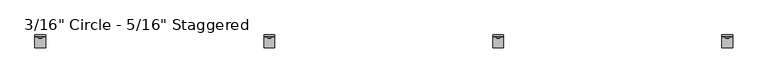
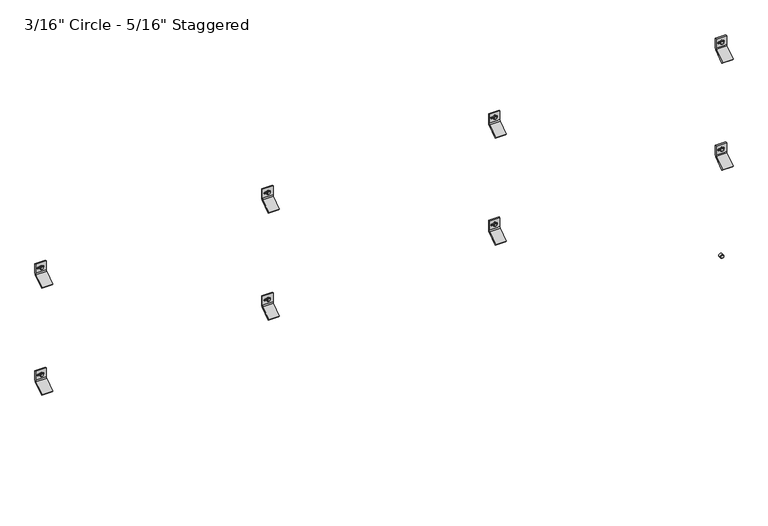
"""IFC4 building model written with IfcOpenShell, lengths in millimetres: plate geometry."""

from ifc_helpers import new_model, si_unit, point, frame, frame_2d, origin, place, context, project, spatial, polyline, circle_curve, trimmed, segment, composite_curve, outline, extrude, source, transform, mapped, element, save
from ifc_brep_helpers import plane_surface, cylinder_surface, revolved_surface, advanced_brep


def plate_aa715eca(model_context):
    return source(origin(), model_context, "Body", "SolidModel", [
        extrude(outline(polyline([(1395.4295323, 1223.7070034), (1391.0838197, 1226.2160017), (1391.0838197, 1231.2339983), (1395.4295323, 1233.7429966), (1399.7752448, 1231.2339983), (1399.7752448, 1226.2160017), (1395.4295323, 1223.7070034)])), frame((0.0, -58.7607779, 0.0), z_axis=(0.0, 1.0, 0.0), x_axis=(0.0, 0.0, 1.0)), (0.0, 0.0, 1.0), 11.1357779),
        extrude(outline(composite_curve([segment(trimmed(circle_curve(frame_2d((1395.5228392, 1228.725)), 6.35), [point((1395.5228392, 1235.075))], [point((1395.5228392, 1222.375))], False, "CARTESIAN"), True, "CONTINUOUS"), segment(trimmed(circle_curve(frame_2d((1395.5228392, 1228.725)), 6.35), [point((1395.5228392, 1222.375))], [point((1395.5228392, 1235.075))], False, "CARTESIAN"), True, "CONTINUOUS")], self_intersect=False)), frame((0.0, -57.0817743, 0.0), z_axis=(0.0, 1.0, 0.0), x_axis=(0.0, 0.0, 1.0)), (0.0, 0.0, 1.0), 9.4567743),
        advanced_brep(
        [(1209.675, -47.625, 1378.2802202), (1209.675, -51.2819443, 1370.6181877), (1209.675, -89.5163624, 1343.84616), (1209.675, -92.9330442, 1347.2628418), (1209.675, -54.3526876, 1374.2770983), (1209.675, -52.4002, 1378.2802911), (1209.675, -52.4002, 1412.4729053), (1209.675, -47.625, 1412.4729053), (1247.775, -47.625, 1378.2802202), (1247.775, -47.625, 1412.4729053), (1247.775, -52.4002, 1412.4729053), (1247.775, -52.4002, 1378.2802911), (1247.775, -54.3526876, 1374.2770983), (1247.775, -92.9330442, 1347.2628418), (1247.775, -89.5163624, 1343.84616), (1247.775, -51.2819443, 1370.6181877), (1235.4661889, -52.4002, 1398.4276891), (1235.4661889, -52.4002, 1392.0776891), (1219.2383287, -52.4002, 1392.0776891), (1219.2383287, -52.4002, 1398.4276891), (1235.4661889, -47.625, 1392.0776891), (1235.4661889, -47.625, 1398.4276891), (1219.2383287, -47.625, 1398.4276891), (1219.2383287, -47.625, 1392.0776891)],
        [
            (0, 1, circle_curve(frame((1209.675, -57.4802202, 1378.2802202), z_axis=(-1.0, 0.0, 0.0), x_axis=(0.0, -1.0, 0.0)), 9.8552202)),
            (1, 2),
            (2, 3),
            (3, 4),
            (4, 5, circle_curve(frame((1209.675, -57.4803246, 1378.2802911), z_axis=(1.0, 0.0, 0.0), x_axis=(0.0, -1.0, 0.0)), 5.0801246)),
            (5, 6),
            (6, 7),
            (7, 0),
            (8, 9),
            (9, 10),
            (10, 11),
            (11, 12, circle_curve(frame((1247.775, -57.4803246, 1378.2802911), z_axis=(-1.0, 0.0, 0.0), x_axis=(0.0, -1.0, 0.0)), 5.0801246)),
            (12, 13),
            (13, 14),
            (14, 15),
            (15, 8, circle_curve(frame((1247.775, -57.4802202, 1378.2802202), z_axis=(1.0, 0.0, 0.0), x_axis=(0.0, -1.0, 0.0)), 9.8552202)),
            (4, 12),
            (11, 5),
            (10, 6),
            (16, 17, circle_curve(frame((1235.4661889, -52.4002, 1395.2526891), z_axis=(0.0, 1.0, 0.0), x_axis=(0.0, 0.0, -1.0)), 3.175)),
            (17, 18),
            (18, 19, circle_curve(frame((1219.2383287, -52.4002, 1395.2526891), z_axis=(0.0, 1.0, 0.0), x_axis=(0.0, 0.0, -1.0)), 3.175)),
            (19, 16),
            (9, 7),
            (8, 0),
            (20, 21, circle_curve(frame((1235.4661889, -47.625, 1395.2526891), z_axis=(0.0, -1.0, 0.0), x_axis=(0.0, 0.0, -1.0)), 3.175)),
            (21, 22),
            (22, 23, circle_curve(frame((1219.2383287, -47.625, 1395.2526891), z_axis=(0.0, -1.0, 0.0), x_axis=(0.0, 0.0, -1.0)), 3.175)),
            (23, 20),
            (15, 1),
            (20, 17),
            (16, 21),
            (19, 22),
            (18, 23),
            (14, 2),
            (13, 3),
        ],
        [
            plane_surface(frame((1209.675, -67.3354404, 1378.2802202), z_axis=(-1.0, 0.0, 0.0), x_axis=(0.0, 0.0, 1.0))),
            plane_surface(frame((1247.775, -67.3354404, 1378.2802202), z_axis=(1.0, 0.0, 0.0), x_axis=(0.0, 0.0, -1.0))),
            revolved_surface(polyline([(1247.775, -62.5604492, 1378.2802911), (1209.675, -62.5604492, 1378.2802911)]), (1247.775, -57.4803246, 1378.2802911), (1.0, 0.0, 0.0)),
            plane_surface(frame((1209.675, -52.4002, 1378.2802911), z_axis=(0.0, -1.0, 0.0), x_axis=(1.0, 0.0, 0.0))),
            plane_surface(frame((1209.675, -52.4002, 1412.4729053), z_axis=(0.0, 0.0, 1.0), x_axis=(1.0, 0.0, 0.0))),
            plane_surface(frame((1209.675, -47.625, 1412.4729053), z_axis=(0.0, 1.0, 6.99569853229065e-12), x_axis=(1.0, 0.0, 0.0))),
            cylinder_surface(frame((1247.775, -57.4802202, 1378.2802202), z_axis=(-1.0, 0.0, 0.0), x_axis=(0.0, -1.0, 0.0)), 9.8552202),
            revolved_surface(polyline([(1235.4661889, -52.4002, 1392.0776891), (1235.4661889, -47.625, 1392.0776891)]), (1235.4661889, -25.6669948, 1395.2526891), (0.0, -1.0, 0.0)),
            plane_surface(frame((1235.4661889, -86.677982, 1398.4276891), z_axis=(0.0, 0.0, -1.0), x_axis=(0.0, 1.0, 0.0))),
            revolved_surface(polyline([(1219.2383287, -52.4002, 1392.0776891), (1219.2383287, -47.625, 1392.0776891)]), (1219.2383287, -25.6669948, 1395.2526891), (0.0, -1.0, 0.0)),
            plane_surface(frame((1219.2383287, -86.677982, 1392.0776891), z_axis=(-2.7237720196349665e-11, 0.0, 1.0), x_axis=(0.0, 1.0, 0.0))),
            plane_surface(frame((1209.675, -51.2819443, 1370.6181877), z_axis=(0.0, 0.5735764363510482, -0.8191520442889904), x_axis=(1.0, 0.0, 0.0))),
            plane_surface(frame((1209.675, -89.5163624, 1343.84616), z_axis=(0.0, -0.7071067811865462, -0.7071067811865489), x_axis=(1.0, 0.0, 0.0))),
            plane_surface(frame((1209.675, -92.9330442, 1347.2628418), z_axis=(0.0, -0.5735764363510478, 0.8191520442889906), x_axis=(1.0, 0.0, 0.0))),
        ],
        [
            (0, [[1, 2, 3, 4, 5, 6, 7, 8]]),
            (1, [[9, 10, 11, 12, 13, 14, 15, 16]]),
            (2, [[-5, 17, -12, 18]]),
            (3, [[-6, -18, -11, 19], [20, 21, 22, 23]]),
            (4, [[-7, -19, -10, 24]]),
            (5, [[-8, -24, -9, 25], [26, 27, 28, 29]]),
            (6, [[-1, -25, -16, 30]]),
            (7, [[31, -20, 32, -26]]),
            (8, [[-32, -23, 33, -27]]),
            (9, [[-33, -22, 34, -28]]),
            (10, [[-31, -29, -34, -21]]),
            (11, [[-2, -30, -15, 35]]),
            (12, [[-3, -35, -14, 36]]),
            (13, [[-4, -36, -13, -17]]),
        ],
    ),
        extrude(outline(polyline([(1395.4295323, 404.5570034), (1391.0838197, 407.0660017), (1391.0838197, 412.0839983), (1395.4295323, 414.5929966), (1399.7752448, 412.0839983), (1399.7752448, 407.0660017), (1395.4295323, 404.5570034)])), frame((0.0, -58.7607779, 0.0), z_axis=(0.0, 1.0, 0.0), x_axis=(0.0, 0.0, 1.0)), (0.0, 0.0, 1.0), 11.1357779),
        extrude(outline(composite_curve([segment(trimmed(circle_curve(frame_2d((1395.5228392, 409.575)), 6.35), [point((1395.5228392, 415.925))], [point((1395.5228392, 403.225))], False, "CARTESIAN"), True, "CONTINUOUS"), segment(trimmed(circle_curve(frame_2d((1395.5228392, 409.575)), 6.35), [point((1395.5228392, 403.225))], [point((1395.5228392, 415.925))], False, "CARTESIAN"), True, "CONTINUOUS")], self_intersect=False)), frame((0.0, -57.0817743, 0.0), z_axis=(0.0, 1.0, 0.0), x_axis=(0.0, 0.0, 1.0)), (0.0, 0.0, 1.0), 9.4567743),
        advanced_brep(
        [(390.525, -47.625, 1378.2802202), (390.525, -51.2819443, 1370.6181877), (390.525, -89.5163624, 1343.84616), (390.525, -92.9330442, 1347.2628418), (390.525, -54.3526876, 1374.2770983), (390.525, -52.4002, 1378.2802911), (390.525, -52.4002, 1412.4729053), (390.525, -47.625, 1412.4729053), (428.625, -47.625, 1378.2802202), (428.625, -47.625, 1412.4729053), (428.625, -52.4002, 1412.4729053), (428.625, -52.4002, 1378.2802911), (428.625, -54.3526876, 1374.2770983), (428.625, -92.9330442, 1347.2628418), (428.625, -89.5163624, 1343.84616), (428.625, -51.2819443, 1370.6181877), (416.3161889, -52.4002, 1398.4276891), (416.3161889, -52.4002, 1392.0776891), (400.0883287, -52.4002, 1392.0776891), (400.0883287, -52.4002, 1398.4276891), (416.3161889, -47.625, 1392.0776891), (416.3161889, -47.625, 1398.4276891), (400.0883287, -47.625, 1398.4276891), (400.0883287, -47.625, 1392.0776891)],
        [
            (0, 1, circle_curve(frame((390.525, -57.4802202, 1378.2802202), z_axis=(-1.0, 0.0, 0.0), x_axis=(0.0, -1.0, 0.0)), 9.8552202)),
            (1, 2),
            (2, 3),
            (3, 4),
            (4, 5, circle_curve(frame((390.525, -57.4803246, 1378.2802911), z_axis=(1.0, 0.0, 0.0), x_axis=(0.0, -1.0, 0.0)), 5.0801246)),
            (5, 6),
            (6, 7),
            (7, 0),
            (8, 9),
            (9, 10),
            (10, 11),
            (11, 12, circle_curve(frame((428.625, -57.4803246, 1378.2802911), z_axis=(-1.0, 0.0, 0.0), x_axis=(0.0, -1.0, 0.0)), 5.0801246)),
            (12, 13),
            (13, 14),
            (14, 15),
            (15, 8, circle_curve(frame((428.625, -57.4802202, 1378.2802202), z_axis=(1.0, 0.0, 0.0), x_axis=(0.0, -1.0, 0.0)), 9.8552202)),
            (4, 12),
            (11, 5),
            (10, 6),
            (16, 17, circle_curve(frame((416.3161889, -52.4002, 1395.2526891), z_axis=(0.0, 1.0, 0.0), x_axis=(0.0, 0.0, -1.0)), 3.175)),
            (17, 18),
            (18, 19, circle_curve(frame((400.0883287, -52.4002, 1395.2526891), z_axis=(0.0, 1.0, 0.0), x_axis=(0.0, 0.0, -1.0)), 3.175)),
            (19, 16),
            (9, 7),
            (8, 0),
            (20, 21, circle_curve(frame((416.3161889, -47.625, 1395.2526891), z_axis=(0.0, -1.0, 0.0), x_axis=(0.0, 0.0, -1.0)), 3.175)),
            (21, 22),
            (22, 23, circle_curve(frame((400.0883287, -47.625, 1395.2526891), z_axis=(0.0, -1.0, 0.0), x_axis=(0.0, 0.0, -1.0)), 3.175)),
            (23, 20),
            (15, 1),
            (20, 17),
            (16, 21),
            (19, 22),
            (18, 23),
            (14, 2),
            (13, 3),
        ],
        [
            plane_surface(frame((390.525, -67.3354404, 1378.2802202), z_axis=(-1.0, 0.0, 0.0), x_axis=(0.0, 0.0, 1.0))),
            plane_surface(frame((428.625, -67.3354404, 1378.2802202), z_axis=(1.0, 0.0, 0.0), x_axis=(0.0, 0.0, -1.0))),
            revolved_surface(polyline([(428.625, -62.5604492, 1378.2802911), (390.525, -62.5604492, 1378.2802911)]), (428.625, -57.4803246, 1378.2802911), (1.0, 0.0, 0.0)),
            plane_surface(frame((390.525, -52.4002, 1378.2802911), z_axis=(0.0, -1.0, 0.0), x_axis=(1.0, 0.0, 0.0))),
            plane_surface(frame((390.525, -52.4002, 1412.4729053), z_axis=(0.0, 0.0, 1.0), x_axis=(1.0, 0.0, 0.0))),
            plane_surface(frame((390.525, -47.625, 1412.4729053), z_axis=(0.0, 1.0, 6.99569853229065e-12), x_axis=(1.0, 0.0, 0.0))),
            cylinder_surface(frame((428.625, -57.4802202, 1378.2802202), z_axis=(-1.0, 0.0, 0.0), x_axis=(0.0, -1.0, 0.0)), 9.8552202),
            revolved_surface(polyline([(416.3161889, -52.4002, 1392.0776891), (416.3161889, -47.625, 1392.0776891)]), (416.3161889, -25.6669948, 1395.2526891), (0.0, -1.0, 0.0)),
            plane_surface(frame((416.3161889, -86.677982, 1398.4276891), z_axis=(0.0, 0.0, -1.0), x_axis=(0.0, 1.0, 0.0))),
            revolved_surface(polyline([(400.0883287, -52.4002, 1392.0776891), (400.0883287, -47.625, 1392.0776891)]), (400.0883287, -25.6669948, 1395.2526891), (0.0, -1.0, 0.0)),
            plane_surface(frame((400.0883287, -86.677982, 1392.0776891), z_axis=(-2.7237720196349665e-11, 0.0, 1.0), x_axis=(0.0, 1.0, 0.0))),
            plane_surface(frame((390.525, -51.2819443, 1370.6181877), z_axis=(0.0, 0.5735764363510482, -0.8191520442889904), x_axis=(1.0, 0.0, 0.0))),
            plane_surface(frame((390.525, -89.5163624, 1343.84616), z_axis=(0.0, -0.7071067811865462, -0.7071067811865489), x_axis=(1.0, 0.0, 0.0))),
            plane_surface(frame((390.525, -92.9330442, 1347.2628418), z_axis=(0.0, -0.5735764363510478, 0.8191520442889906), x_axis=(1.0, 0.0, 0.0))),
        ],
        [
            (0, [[1, 2, 3, 4, 5, 6, 7, 8]]),
            (1, [[9, 10, 11, 12, 13, 14, 15, 16]]),
            (2, [[-5, 17, -12, 18]]),
            (3, [[-6, -18, -11, 19], [20, 21, 22, 23]]),
            (4, [[-7, -19, -10, 24]]),
            (5, [[-8, -24, -9, 25], [26, 27, 28, 29]]),
            (6, [[-1, -25, -16, 30]]),
            (7, [[31, -20, 32, -26]]),
            (8, [[-32, -23, 33, -27]]),
            (9, [[-33, -22, 34, -28]]),
            (10, [[-31, -29, -34, -21]]),
            (11, [[-2, -30, -15, 35]]),
            (12, [[-3, -35, -14, 36]]),
            (13, [[-4, -36, -13, -17]]),
        ],
    ),
        extrude(outline(polyline([(1395.4295323, -414.5929966), (1391.0838197, -412.0839983), (1391.0838197, -407.0660017), (1395.4295323, -404.5570034), (1399.7752448, -407.0660017), (1399.7752448, -412.0839983), (1395.4295323, -414.5929966)])), frame((0.0, -58.7607779, 0.0), z_axis=(0.0, 1.0, 0.0), x_axis=(0.0, 0.0, 1.0)), (0.0, 0.0, 1.0), 11.1357779),
        extrude(outline(composite_curve([segment(trimmed(circle_curve(frame_2d((1395.5228392, -409.575)), 6.35), [point((1395.5228392, -403.225))], [point((1395.5228392, -415.925))], False, "CARTESIAN"), True, "CONTINUOUS"), segment(trimmed(circle_curve(frame_2d((1395.5228392, -409.575)), 6.35), [point((1395.5228392, -415.925))], [point((1395.5228392, -403.225))], False, "CARTESIAN"), True, "CONTINUOUS")], self_intersect=False)), frame((0.0, -57.0817743, 0.0), z_axis=(0.0, 1.0, 0.0), x_axis=(0.0, 0.0, 1.0)), (0.0, 0.0, 1.0), 9.4567743),
        advanced_brep(
        [(-428.625, -47.625, 1378.2802202), (-428.625, -51.2819443, 1370.6181877), (-428.625, -89.5163624, 1343.84616), (-428.625, -92.9330442, 1347.2628418), (-428.625, -54.3526876, 1374.2770983), (-428.625, -52.4002, 1378.2802911), (-428.625, -52.4002, 1412.4729053), (-428.625, -47.625, 1412.4729053), (-390.525, -47.625, 1378.2802202), (-390.525, -47.625, 1412.4729053), (-390.525, -52.4002, 1412.4729053), (-390.525, -52.4002, 1378.2802911), (-390.525, -54.3526876, 1374.2770983), (-390.525, -92.9330442, 1347.2628418), (-390.525, -89.5163624, 1343.84616), (-390.525, -51.2819443, 1370.6181877), (-402.8338111, -52.4002, 1398.4276891), (-402.8338111, -52.4002, 1392.0776891), (-419.0616713, -52.4002, 1392.0776891), (-419.0616713, -52.4002, 1398.4276891), (-402.8338111, -47.625, 1392.0776891), (-402.8338111, -47.625, 1398.4276891), (-419.0616713, -47.625, 1398.4276891), (-419.0616713, -47.625, 1392.0776891)],
        [
            (0, 1, circle_curve(frame((-428.625, -57.4802202, 1378.2802202), z_axis=(-1.0, 0.0, 0.0), x_axis=(0.0, -1.0, 0.0)), 9.8552202)),
            (1, 2),
            (2, 3),
            (3, 4),
            (4, 5, circle_curve(frame((-428.625, -57.4803246, 1378.2802911), z_axis=(1.0, 0.0, 0.0), x_axis=(0.0, -1.0, 0.0)), 5.0801246)),
            (5, 6),
            (6, 7),
            (7, 0),
            (8, 9),
            (9, 10),
            (10, 11),
            (11, 12, circle_curve(frame((-390.525, -57.4803246, 1378.2802911), z_axis=(-1.0, 0.0, 0.0), x_axis=(0.0, -1.0, 0.0)), 5.0801246)),
            (12, 13),
            (13, 14),
            (14, 15),
            (15, 8, circle_curve(frame((-390.525, -57.4802202, 1378.2802202), z_axis=(1.0, 0.0, 0.0), x_axis=(0.0, -1.0, 0.0)), 9.8552202)),
            (4, 12),
            (11, 5),
            (10, 6),
            (16, 17, circle_curve(frame((-402.8338111, -52.4002, 1395.2526891), z_axis=(0.0, 1.0, 0.0), x_axis=(0.0, 0.0, -1.0)), 3.175)),
            (17, 18),
            (18, 19, circle_curve(frame((-419.0616713, -52.4002, 1395.2526891), z_axis=(0.0, 1.0, 0.0), x_axis=(0.0, 0.0, -1.0)), 3.175)),
            (19, 16),
            (9, 7),
            (8, 0),
            (20, 21, circle_curve(frame((-402.8338111, -47.625, 1395.2526891), z_axis=(0.0, -1.0, 0.0), x_axis=(0.0, 0.0, -1.0)), 3.175)),
            (21, 22),
            (22, 23, circle_curve(frame((-419.0616713, -47.625, 1395.2526891), z_axis=(0.0, -1.0, 0.0), x_axis=(0.0, 0.0, -1.0)), 3.175)),
            (23, 20),
            (15, 1),
            (20, 17),
            (16, 21),
            (19, 22),
            (18, 23),
            (14, 2),
            (13, 3),
        ],
        [
            plane_surface(frame((-428.625, -67.3354404, 1378.2802202), z_axis=(-1.0, 0.0, 0.0), x_axis=(0.0, 0.0, 1.0))),
            plane_surface(frame((-390.525, -67.3354404, 1378.2802202), z_axis=(1.0, 0.0, 0.0), x_axis=(0.0, 0.0, -1.0))),
            revolved_surface(polyline([(-390.525, -62.5604492, 1378.2802911), (-428.625, -62.5604492, 1378.2802911)]), (-390.525, -57.4803246, 1378.2802911), (1.0, 0.0, 0.0)),
            plane_surface(frame((-428.625, -52.4002, 1378.2802911), z_axis=(0.0, -1.0, 0.0), x_axis=(1.0, 0.0, 0.0))),
            plane_surface(frame((-428.625, -52.4002, 1412.4729053), z_axis=(0.0, 0.0, 1.0), x_axis=(1.0, 0.0, 0.0))),
            plane_surface(frame((-428.625, -47.625, 1412.4729053), z_axis=(0.0, 1.0, 6.99569853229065e-12), x_axis=(1.0, 0.0, 0.0))),
            cylinder_surface(frame((-390.525, -57.4802202, 1378.2802202), z_axis=(-1.0, 0.0, 0.0), x_axis=(0.0, -1.0, 0.0)), 9.8552202),
            revolved_surface(polyline([(-402.8338111, -52.4002, 1392.0776891), (-402.8338111, -47.625, 1392.0776891)]), (-402.8338111, -25.6669948, 1395.2526891), (0.0, -1.0, 0.0)),
            plane_surface(frame((-402.8338111, -86.677982, 1398.4276891), z_axis=(0.0, 0.0, -1.0), x_axis=(0.0, 1.0, 0.0))),
            revolved_surface(polyline([(-419.0616713, -52.4002, 1392.0776891), (-419.0616713, -47.625, 1392.0776891)]), (-419.0616713, -25.6669948, 1395.2526891), (0.0, -1.0, 0.0)),
            plane_surface(frame((-419.0616713, -86.677982, 1392.0776891), z_axis=(-2.7237720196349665e-11, 0.0, 1.0), x_axis=(0.0, 1.0, 0.0))),
            plane_surface(frame((-428.625, -51.2819443, 1370.6181877), z_axis=(0.0, 0.5735764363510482, -0.8191520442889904), x_axis=(1.0, 0.0, 0.0))),
            plane_surface(frame((-428.625, -89.5163624, 1343.84616), z_axis=(0.0, -0.7071067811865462, -0.7071067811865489), x_axis=(1.0, 0.0, 0.0))),
            plane_surface(frame((-428.625, -92.9330442, 1347.2628418), z_axis=(0.0, -0.5735764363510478, 0.8191520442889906), x_axis=(1.0, 0.0, 0.0))),
        ],
        [
            (0, [[1, 2, 3, 4, 5, 6, 7, 8]]),
            (1, [[9, 10, 11, 12, 13, 14, 15, 16]]),
            (2, [[-5, 17, -12, 18]]),
            (3, [[-6, -18, -11, 19], [20, 21, 22, 23]]),
            (4, [[-7, -19, -10, 24]]),
            (5, [[-8, -24, -9, 25], [26, 27, 28, 29]]),
            (6, [[-1, -25, -16, 30]]),
            (7, [[31, -20, 32, -26]]),
            (8, [[-32, -23, 33, -27]]),
            (9, [[-33, -22, 34, -28]]),
            (10, [[-31, -29, -34, -21]]),
            (11, [[-2, -30, -15, 35]]),
            (12, [[-3, -35, -14, 36]]),
            (13, [[-4, -36, -13, -17]]),
        ],
    ),
        extrude(outline(polyline([(1395.4295323, -1233.7429966), (1391.0838197, -1231.2339983), (1391.0838197, -1226.2160017), (1395.4295323, -1223.7070034), (1399.7752448, -1226.2160017), (1399.7752448, -1231.2339983), (1395.4295323, -1233.7429966)])), frame((0.0, -58.7607779, 0.0), z_axis=(0.0, 1.0, 0.0), x_axis=(0.0, 0.0, 1.0)), (0.0, 0.0, 1.0), 11.1357779),
        extrude(outline(composite_curve([segment(trimmed(circle_curve(frame_2d((1395.5228392, -1228.725)), 6.35), [point((1395.5228392, -1222.375))], [point((1395.5228392, -1235.075))], False, "CARTESIAN"), True, "CONTINUOUS"), segment(trimmed(circle_curve(frame_2d((1395.5228392, -1228.725)), 6.35), [point((1395.5228392, -1235.075))], [point((1395.5228392, -1222.375))], False, "CARTESIAN"), True, "CONTINUOUS")], self_intersect=False)), frame((0.0, -57.0817743, 0.0), z_axis=(0.0, 1.0, 0.0), x_axis=(0.0, 0.0, 1.0)), (0.0, 0.0, 1.0), 9.4567743),
        advanced_brep(
        [(-1247.775, -47.625, 1378.2802202), (-1247.775, -51.2819443, 1370.6181877), (-1247.775, -89.5163624, 1343.84616), (-1247.775, -92.9330442, 1347.2628418), (-1247.775, -54.3526876, 1374.2770983), (-1247.775, -52.4002, 1378.2802911), (-1247.775, -52.4002, 1412.4729053), (-1247.775, -47.625, 1412.4729053), (-1209.675, -47.625, 1378.2802202), (-1209.675, -47.625, 1412.4729053), (-1209.675, -52.4002, 1412.4729053), (-1209.675, -52.4002, 1378.2802911), (-1209.675, -54.3526876, 1374.2770983), (-1209.675, -92.9330442, 1347.2628418), (-1209.675, -89.5163624, 1343.84616), (-1209.675, -51.2819443, 1370.6181877), (-1221.9838111, -52.4002, 1398.4276891), (-1221.9838111, -52.4002, 1392.0776891), (-1238.2116713, -52.4002, 1392.0776891), (-1238.2116713, -52.4002, 1398.4276891), (-1221.9838111, -47.625, 1392.0776891), (-1221.9838111, -47.625, 1398.4276891), (-1238.2116713, -47.625, 1398.4276891), (-1238.2116713, -47.625, 1392.0776891)],
        [
            (0, 1, circle_curve(frame((-1247.775, -57.4802202, 1378.2802202), z_axis=(-1.0, 0.0, 0.0), x_axis=(0.0, -1.0, 0.0)), 9.8552202)),
            (1, 2),
            (2, 3),
            (3, 4),
            (4, 5, circle_curve(frame((-1247.775, -57.4803246, 1378.2802911), z_axis=(1.0, 0.0, 0.0), x_axis=(0.0, -1.0, 0.0)), 5.0801246)),
            (5, 6),
            (6, 7),
            (7, 0),
            (8, 9),
            (9, 10),
            (10, 11),
            (11, 12, circle_curve(frame((-1209.675, -57.4803246, 1378.2802911), z_axis=(-1.0, 0.0, 0.0), x_axis=(0.0, -1.0, 0.0)), 5.0801246)),
            (12, 13),
            (13, 14),
            (14, 15),
            (15, 8, circle_curve(frame((-1209.675, -57.4802202, 1378.2802202), z_axis=(1.0, 0.0, 0.0), x_axis=(0.0, -1.0, 0.0)), 9.8552202)),
            (4, 12),
            (11, 5),
            (10, 6),
            (16, 17, circle_curve(frame((-1221.9838111, -52.4002, 1395.2526891), z_axis=(0.0, 1.0, 0.0), x_axis=(0.0, 0.0, -1.0)), 3.175)),
            (17, 18),
            (18, 19, circle_curve(frame((-1238.2116713, -52.4002, 1395.2526891), z_axis=(0.0, 1.0, 0.0), x_axis=(0.0, 0.0, -1.0)), 3.175)),
            (19, 16),
            (9, 7),
            (8, 0),
            (20, 21, circle_curve(frame((-1221.9838111, -47.625, 1395.2526891), z_axis=(0.0, -1.0, 0.0), x_axis=(0.0, 0.0, -1.0)), 3.175)),
            (21, 22),
            (22, 23, circle_curve(frame((-1238.2116713, -47.625, 1395.2526891), z_axis=(0.0, -1.0, 0.0), x_axis=(0.0, 0.0, -1.0)), 3.175)),
            (23, 20),
            (15, 1),
            (20, 17),
            (16, 21),
            (19, 22),
            (18, 23),
            (14, 2),
            (13, 3),
        ],
        [
            plane_surface(frame((-1247.775, -67.3354404, 1378.2802202), z_axis=(-1.0, 0.0, 0.0), x_axis=(0.0, 0.0, 1.0))),
            plane_surface(frame((-1209.675, -67.3354404, 1378.2802202), z_axis=(1.0, 0.0, 0.0), x_axis=(0.0, 0.0, -1.0))),
            revolved_surface(polyline([(-1209.675, -62.5604492, 1378.2802911), (-1247.775, -62.5604492, 1378.2802911)]), (-1209.675, -57.4803246, 1378.2802911), (1.0, 0.0, 0.0)),
            plane_surface(frame((-1247.775, -52.4002, 1378.2802911), z_axis=(0.0, -1.0, 0.0), x_axis=(1.0, 0.0, 0.0))),
            plane_surface(frame((-1247.775, -52.4002, 1412.4729053), z_axis=(0.0, 0.0, 1.0), x_axis=(1.0, 0.0, 0.0))),
            plane_surface(frame((-1247.775, -47.625, 1412.4729053), z_axis=(0.0, 1.0, 6.99569853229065e-12), x_axis=(1.0, 0.0, 0.0))),
            cylinder_surface(frame((-1209.675, -57.4802202, 1378.2802202), z_axis=(-1.0, 0.0, 0.0), x_axis=(0.0, -1.0, 0.0)), 9.8552202),
            revolved_surface(polyline([(-1221.9838111, -52.4002, 1392.0776891), (-1221.9838111, -47.625, 1392.0776891)]), (-1221.9838111, -25.6669948, 1395.2526891), (0.0, -1.0, 0.0)),
            plane_surface(frame((-1221.9838111, -86.677982, 1398.4276891), z_axis=(0.0, 0.0, -1.0), x_axis=(0.0, 1.0, 0.0))),
            revolved_surface(polyline([(-1238.2116713, -52.4002, 1392.0776891), (-1238.2116713, -47.625, 1392.0776891)]), (-1238.2116713, -25.6669948, 1395.2526891), (0.0, -1.0, 0.0)),
            plane_surface(frame((-1238.2116713, -86.677982, 1392.0776891), z_axis=(-2.7237720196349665e-11, 0.0, 1.0), x_axis=(0.0, 1.0, 0.0))),
            plane_surface(frame((-1247.775, -51.2819443, 1370.6181877), z_axis=(0.0, 0.5735764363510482, -0.8191520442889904), x_axis=(1.0, 0.0, 0.0))),
            plane_surface(frame((-1247.775, -89.5163624, 1343.84616), z_axis=(0.0, -0.7071067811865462, -0.7071067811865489), x_axis=(1.0, 0.0, 0.0))),
            plane_surface(frame((-1247.775, -92.9330442, 1347.2628418), z_axis=(0.0, -0.5735764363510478, 0.8191520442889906), x_axis=(1.0, 0.0, 0.0))),
        ],
        [
            (0, [[1, 2, 3, 4, 5, 6, 7, 8]]),
            (1, [[9, 10, 11, 12, 13, 14, 15, 16]]),
            (2, [[-5, 17, -12, 18]]),
            (3, [[-6, -18, -11, 19], [20, 21, 22, 23]]),
            (4, [[-7, -19, -10, 24]]),
            (5, [[-8, -24, -9, 25], [26, 27, 28, 29]]),
            (6, [[-1, -25, -16, 30]]),
            (7, [[31, -20, 32, -26]]),
            (8, [[-32, -23, 33, -27]]),
            (9, [[-33, -22, 34, -28]]),
            (10, [[-31, -29, -34, -21]]),
            (11, [[-2, -30, -15, 35]]),
            (12, [[-3, -35, -14, 36]]),
            (13, [[-4, -36, -13, -17]]),
        ],
    ),
        extrude(outline(polyline([(986.9128656, 1223.7070034), (982.5671531, 1226.2160017), (982.5671531, 1231.2339983), (986.9128656, 1233.7429966), (991.2585781, 1231.2339983), (991.2585781, 1226.2160017), (986.9128656, 1223.7070034)])), frame((0.0, -58.7607779, 0.0), z_axis=(0.0, 1.0, 0.0), x_axis=(0.0, 0.0, 1.0)), (0.0, 0.0, 1.0), 11.1357779),
        extrude(outline(composite_curve([segment(trimmed(circle_curve(frame_2d((987.0061726, 1228.725)), 6.35), [point((987.0061726, 1235.075))], [point((987.0061726, 1222.375))], False, "CARTESIAN"), True, "CONTINUOUS"), segment(trimmed(circle_curve(frame_2d((987.0061726, 1228.725)), 6.35), [point((987.0061726, 1222.375))], [point((987.0061726, 1235.075))], False, "CARTESIAN"), True, "CONTINUOUS")], self_intersect=False)), frame((0.0, -57.0817743, 0.0), z_axis=(0.0, 1.0, 0.0), x_axis=(0.0, 0.0, 1.0)), (0.0, 0.0, 1.0), 9.4567743),
        advanced_brep(
        [(1209.675, -47.625, 969.7635535), (1209.675, -51.2819443, 962.1015211), (1209.675, -89.5163624, 935.3294933), (1209.675, -92.9330442, 938.7461751), (1209.675, -54.3526876, 965.7604316), (1209.675, -52.4002, 969.7636244), (1209.675, -52.4002, 1003.9562386), (1209.675, -47.625, 1003.9562386), (1247.775, -47.625, 969.7635535), (1247.775, -47.625, 1003.9562386), (1247.775, -52.4002, 1003.9562386), (1247.775, -52.4002, 969.7636244), (1247.775, -54.3526876, 965.7604316), (1247.775, -92.9330442, 938.7461751), (1247.775, -89.5163624, 935.3294933), (1247.775, -51.2819443, 962.1015211), (1235.4661889, -52.4002, 989.9110224), (1235.4661889, -52.4002, 983.5610224), (1219.2383287, -52.4002, 983.5610224), (1219.2383287, -52.4002, 989.9110224), (1235.4661889, -47.625, 983.5610224), (1235.4661889, -47.625, 989.9110224), (1219.2383287, -47.625, 989.9110224), (1219.2383287, -47.625, 983.5610224)],
        [
            (0, 1, circle_curve(frame((1209.675, -57.4802202, 969.7635535), z_axis=(-1.0, 0.0, 0.0), x_axis=(0.0, -1.0, 0.0)), 9.8552202)),
            (1, 2),
            (2, 3),
            (3, 4),
            (4, 5, circle_curve(frame((1209.675, -57.4803246, 969.7636244), z_axis=(1.0, 0.0, 0.0), x_axis=(0.0, -1.0, 0.0)), 5.0801246)),
            (5, 6),
            (6, 7),
            (7, 0),
            (8, 9),
            (9, 10),
            (10, 11),
            (11, 12, circle_curve(frame((1247.775, -57.4803246, 969.7636244), z_axis=(-1.0, 0.0, 0.0), x_axis=(0.0, -1.0, 0.0)), 5.0801246)),
            (12, 13),
            (13, 14),
            (14, 15),
            (15, 8, circle_curve(frame((1247.775, -57.4802202, 969.7635535), z_axis=(1.0, 0.0, 0.0), x_axis=(0.0, -1.0, 0.0)), 9.8552202)),
            (4, 12),
            (11, 5),
            (10, 6),
            (16, 17, circle_curve(frame((1235.4661889, -52.4002, 986.7360224), z_axis=(0.0, 1.0, 0.0), x_axis=(0.0, 0.0, -1.0)), 3.175)),
            (17, 18),
            (18, 19, circle_curve(frame((1219.2383287, -52.4002, 986.7360224), z_axis=(0.0, 1.0, 0.0), x_axis=(0.0, 0.0, -1.0)), 3.175)),
            (19, 16),
            (9, 7),
            (8, 0),
            (20, 21, circle_curve(frame((1235.4661889, -47.625, 986.7360224), z_axis=(0.0, -1.0, 0.0), x_axis=(0.0, 0.0, -1.0)), 3.175)),
            (21, 22),
            (22, 23, circle_curve(frame((1219.2383287, -47.625, 986.7360224), z_axis=(0.0, -1.0, 0.0), x_axis=(0.0, 0.0, -1.0)), 3.175)),
            (23, 20),
            (15, 1),
            (20, 17),
            (16, 21),
            (19, 22),
            (18, 23),
            (14, 2),
            (13, 3),
        ],
        [
            plane_surface(frame((1209.675, -67.3354404, 969.7635535), z_axis=(-1.0, 0.0, 0.0), x_axis=(0.0, 0.0, 1.0))),
            plane_surface(frame((1247.775, -67.3354404, 969.7635535), z_axis=(1.0, 0.0, 0.0), x_axis=(0.0, 0.0, -1.0))),
            revolved_surface(polyline([(1247.775, -62.5604492, 969.7636244), (1209.675, -62.5604492, 969.7636244)]), (1247.775, -57.4803246, 969.7636244), (1.0, 0.0, 0.0)),
            plane_surface(frame((1209.675, -52.4002, 969.7636244), z_axis=(0.0, -1.0, 0.0), x_axis=(1.0, 0.0, 0.0))),
            plane_surface(frame((1209.675, -52.4002, 1003.9562386), z_axis=(0.0, 0.0, 1.0), x_axis=(1.0, 0.0, 0.0))),
            plane_surface(frame((1209.675, -47.625, 1003.9562386), z_axis=(0.0, 1.0, 6.99569853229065e-12), x_axis=(1.0, 0.0, 0.0))),
            cylinder_surface(frame((1247.775, -57.4802202, 969.7635535), z_axis=(-1.0, 0.0, 0.0), x_axis=(0.0, -1.0, 0.0)), 9.8552202),
            revolved_surface(polyline([(1235.4661889, -52.4002, 983.5610224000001), (1235.4661889, -47.625, 983.5610224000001)]), (1235.4661889, -25.6669948, 986.7360224), (0.0, -1.0, 0.0)),
            plane_surface(frame((1235.4661889, -86.677982, 989.9110224), z_axis=(0.0, 0.0, -1.0), x_axis=(0.0, 1.0, 0.0))),
            revolved_surface(polyline([(1219.2383287, -52.4002, 983.5610224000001), (1219.2383287, -47.625, 983.5610224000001)]), (1219.2383287, -25.6669948, 986.7360224), (0.0, -1.0, 0.0)),
            plane_surface(frame((1219.2383287, -86.677982, 983.5610224), z_axis=(-2.7237766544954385e-11, 0.0, 1.0), x_axis=(0.0, 1.0, 0.0))),
            plane_surface(frame((1209.675, -51.2819443, 962.1015211), z_axis=(0.0, 0.5735764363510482, -0.8191520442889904), x_axis=(1.0, 0.0, 0.0))),
            plane_surface(frame((1209.675, -89.5163624, 935.3294933), z_axis=(0.0, -0.7071067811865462, -0.7071067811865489), x_axis=(1.0, 0.0, 0.0))),
            plane_surface(frame((1209.675, -92.9330442, 938.7461751), z_axis=(0.0, -0.5735764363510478, 0.8191520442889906), x_axis=(1.0, 0.0, 0.0))),
        ],
        [
            (0, [[1, 2, 3, 4, 5, 6, 7, 8]]),
            (1, [[9, 10, 11, 12, 13, 14, 15, 16]]),
            (2, [[-5, 17, -12, 18]]),
            (3, [[-6, -18, -11, 19], [20, 21, 22, 23]]),
            (4, [[-7, -19, -10, 24]]),
            (5, [[-8, -24, -9, 25], [26, 27, 28, 29]]),
            (6, [[-1, -25, -16, 30]]),
            (7, [[31, -20, 32, -26]]),
            (8, [[-32, -23, 33, -27]]),
            (9, [[-33, -22, 34, -28]]),
            (10, [[-31, -29, -34, -21]]),
            (11, [[-2, -30, -15, 35]]),
            (12, [[-3, -35, -14, 36]]),
            (13, [[-4, -36, -13, -17]]),
        ],
    ),
        extrude(outline(polyline([(986.9128656, 404.5570034), (982.5671531, 407.0660017), (982.5671531, 412.0839983), (986.9128656, 414.5929966), (991.2585781, 412.0839983), (991.2585781, 407.0660017), (986.9128656, 404.5570034)])), frame((0.0, -58.7607779, 0.0), z_axis=(0.0, 1.0, 0.0), x_axis=(0.0, 0.0, 1.0)), (0.0, 0.0, 1.0), 11.1357779),
        extrude(outline(composite_curve([segment(trimmed(circle_curve(frame_2d((987.0061726, 409.575)), 6.35), [point((987.0061726, 415.925))], [point((987.0061726, 403.225))], False, "CARTESIAN"), True, "CONTINUOUS"), segment(trimmed(circle_curve(frame_2d((987.0061726, 409.575)), 6.35), [point((987.0061726, 403.225))], [point((987.0061726, 415.925))], False, "CARTESIAN"), True, "CONTINUOUS")], self_intersect=False)), frame((0.0, -57.0817743, 0.0), z_axis=(0.0, 1.0, 0.0), x_axis=(0.0, 0.0, 1.0)), (0.0, 0.0, 1.0), 9.4567743),
        advanced_brep(
        [(390.525, -47.625, 969.7635535), (390.525, -51.2819443, 962.1015211), (390.525, -89.5163624, 935.3294933), (390.525, -92.9330442, 938.7461751), (390.525, -54.3526876, 965.7604316), (390.525, -52.4002, 969.7636244), (390.525, -52.4002, 1003.9562386), (390.525, -47.625, 1003.9562386), (428.625, -47.625, 969.7635535), (428.625, -47.625, 1003.9562386), (428.625, -52.4002, 1003.9562386), (428.625, -52.4002, 969.7636244), (428.625, -54.3526876, 965.7604316), (428.625, -92.9330442, 938.7461751), (428.625, -89.5163624, 935.3294933), (428.625, -51.2819443, 962.1015211), (416.3161889, -52.4002, 989.9110224), (416.3161889, -52.4002, 983.5610224), (400.0883287, -52.4002, 983.5610224), (400.0883287, -52.4002, 989.9110224), (416.3161889, -47.625, 983.5610224), (416.3161889, -47.625, 989.9110224), (400.0883287, -47.625, 989.9110224), (400.0883287, -47.625, 983.5610224)],
        [
            (0, 1, circle_curve(frame((390.525, -57.4802202, 969.7635535), z_axis=(-1.0, 0.0, 0.0), x_axis=(0.0, -1.0, 0.0)), 9.8552202)),
            (1, 2),
            (2, 3),
            (3, 4),
            (4, 5, circle_curve(frame((390.525, -57.4803246, 969.7636244), z_axis=(1.0, 0.0, 0.0), x_axis=(0.0, -1.0, 0.0)), 5.0801246)),
            (5, 6),
            (6, 7),
            (7, 0),
            (8, 9),
            (9, 10),
            (10, 11),
            (11, 12, circle_curve(frame((428.625, -57.4803246, 969.7636244), z_axis=(-1.0, 0.0, 0.0), x_axis=(0.0, -1.0, 0.0)), 5.0801246)),
            (12, 13),
            (13, 14),
            (14, 15),
            (15, 8, circle_curve(frame((428.625, -57.4802202, 969.7635535), z_axis=(1.0, 0.0, 0.0), x_axis=(0.0, -1.0, 0.0)), 9.8552202)),
            (4, 12),
            (11, 5),
            (10, 6),
            (16, 17, circle_curve(frame((416.3161889, -52.4002, 986.7360224), z_axis=(0.0, 1.0, 0.0), x_axis=(0.0, 0.0, -1.0)), 3.175)),
            (17, 18),
            (18, 19, circle_curve(frame((400.0883287, -52.4002, 986.7360224), z_axis=(0.0, 1.0, 0.0), x_axis=(0.0, 0.0, -1.0)), 3.175)),
            (19, 16),
            (9, 7),
            (8, 0),
            (20, 21, circle_curve(frame((416.3161889, -47.625, 986.7360224), z_axis=(0.0, -1.0, 0.0), x_axis=(0.0, 0.0, -1.0)), 3.175)),
            (21, 22),
            (22, 23, circle_curve(frame((400.0883287, -47.625, 986.7360224), z_axis=(0.0, -1.0, 0.0), x_axis=(0.0, 0.0, -1.0)), 3.175)),
            (23, 20),
            (15, 1),
            (20, 17),
            (16, 21),
            (19, 22),
            (18, 23),
            (14, 2),
            (13, 3),
        ],
        [
            plane_surface(frame((390.525, -67.3354404, 969.7635535), z_axis=(-1.0, 0.0, 0.0), x_axis=(0.0, 0.0, 1.0))),
            plane_surface(frame((428.625, -67.3354404, 969.7635535), z_axis=(1.0, 0.0, 0.0), x_axis=(0.0, 0.0, -1.0))),
            revolved_surface(polyline([(428.625, -62.5604492, 969.7636244), (390.525, -62.5604492, 969.7636244)]), (428.625, -57.4803246, 969.7636244), (1.0, 0.0, 0.0)),
            plane_surface(frame((390.525, -52.4002, 969.7636244), z_axis=(0.0, -1.0, 0.0), x_axis=(1.0, 0.0, 0.0))),
            plane_surface(frame((390.525, -52.4002, 1003.9562386), z_axis=(0.0, 0.0, 1.0), x_axis=(1.0, 0.0, 0.0))),
            plane_surface(frame((390.525, -47.625, 1003.9562386), z_axis=(0.0, 1.0, 6.99569853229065e-12), x_axis=(1.0, 0.0, 0.0))),
            cylinder_surface(frame((428.625, -57.4802202, 969.7635535), z_axis=(-1.0, 0.0, 0.0), x_axis=(0.0, -1.0, 0.0)), 9.8552202),
            revolved_surface(polyline([(416.3161889, -52.4002, 983.5610224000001), (416.3161889, -47.625, 983.5610224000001)]), (416.3161889, -25.6669948, 986.7360224), (0.0, -1.0, 0.0)),
            plane_surface(frame((416.3161889, -86.677982, 989.9110224), z_axis=(0.0, 0.0, -1.0), x_axis=(0.0, 1.0, 0.0))),
            revolved_surface(polyline([(400.0883287, -52.4002, 983.5610224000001), (400.0883287, -47.625, 983.5610224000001)]), (400.0883287, -25.6669948, 986.7360224), (0.0, -1.0, 0.0)),
            plane_surface(frame((400.0883287, -86.677982, 983.5610224), z_axis=(-2.7237766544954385e-11, 0.0, 1.0), x_axis=(0.0, 1.0, 0.0))),
            plane_surface(frame((390.525, -51.2819443, 962.1015211), z_axis=(0.0, 0.5735764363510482, -0.8191520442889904), x_axis=(1.0, 0.0, 0.0))),
            plane_surface(frame((390.525, -89.5163624, 935.3294933), z_axis=(0.0, -0.7071067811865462, -0.7071067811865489), x_axis=(1.0, 0.0, 0.0))),
            plane_surface(frame((390.525, -92.9330442, 938.7461751), z_axis=(0.0, -0.5735764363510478, 0.8191520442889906), x_axis=(1.0, 0.0, 0.0))),
        ],
        [
            (0, [[1, 2, 3, 4, 5, 6, 7, 8]]),
            (1, [[9, 10, 11, 12, 13, 14, 15, 16]]),
            (2, [[-5, 17, -12, 18]]),
            (3, [[-6, -18, -11, 19], [20, 21, 22, 23]]),
            (4, [[-7, -19, -10, 24]]),
            (5, [[-8, -24, -9, 25], [26, 27, 28, 29]]),
            (6, [[-1, -25, -16, 30]]),
            (7, [[31, -20, 32, -26]]),
            (8, [[-32, -23, 33, -27]]),
            (9, [[-33, -22, 34, -28]]),
            (10, [[-31, -29, -34, -21]]),
            (11, [[-2, -30, -15, 35]]),
            (12, [[-3, -35, -14, 36]]),
            (13, [[-4, -36, -13, -17]]),
        ],
    ),
        extrude(outline(polyline([(986.9128656, -414.5929966), (982.5671531, -412.0839983), (982.5671531, -407.0660017), (986.9128656, -404.5570034), (991.2585781, -407.0660017), (991.2585781, -412.0839983), (986.9128656, -414.5929966)])), frame((0.0, -58.7607779, 0.0), z_axis=(0.0, 1.0, 0.0), x_axis=(0.0, 0.0, 1.0)), (0.0, 0.0, 1.0), 11.1357779),
        extrude(outline(composite_curve([segment(trimmed(circle_curve(frame_2d((987.0061726, -409.575)), 6.35), [point((987.0061726, -403.225))], [point((987.0061726, -415.925))], False, "CARTESIAN"), True, "CONTINUOUS"), segment(trimmed(circle_curve(frame_2d((987.0061726, -409.575)), 6.35), [point((987.0061726, -415.925))], [point((987.0061726, -403.225))], False, "CARTESIAN"), True, "CONTINUOUS")], self_intersect=False)), frame((0.0, -57.0817743, 0.0), z_axis=(0.0, 1.0, 0.0), x_axis=(0.0, 0.0, 1.0)), (0.0, 0.0, 1.0), 9.4567743),
        advanced_brep(
        [(-428.625, -47.625, 969.7635535), (-428.625, -51.2819443, 962.1015211), (-428.625, -89.5163624, 935.3294933), (-428.625, -92.9330442, 938.7461751), (-428.625, -54.3526876, 965.7604316), (-428.625, -52.4002, 969.7636244), (-428.625, -52.4002, 1003.9562386), (-428.625, -47.625, 1003.9562386), (-390.525, -47.625, 969.7635535), (-390.525, -47.625, 1003.9562386), (-390.525, -52.4002, 1003.9562386), (-390.525, -52.4002, 969.7636244), (-390.525, -54.3526876, 965.7604316), (-390.525, -92.9330442, 938.7461751), (-390.525, -89.5163624, 935.3294933), (-390.525, -51.2819443, 962.1015211), (-402.8338111, -52.4002, 989.9110224), (-402.8338111, -52.4002, 983.5610224), (-419.0616713, -52.4002, 983.5610224), (-419.0616713, -52.4002, 989.9110224), (-402.8338111, -47.625, 983.5610224), (-402.8338111, -47.625, 989.9110224), (-419.0616713, -47.625, 989.9110224), (-419.0616713, -47.625, 983.5610224)],
        [
            (0, 1, circle_curve(frame((-428.625, -57.4802202, 969.7635535), z_axis=(-1.0, 0.0, 0.0), x_axis=(0.0, -1.0, 0.0)), 9.8552202)),
            (1, 2),
            (2, 3),
            (3, 4),
            (4, 5, circle_curve(frame((-428.625, -57.4803246, 969.7636244), z_axis=(1.0, 0.0, 0.0), x_axis=(0.0, -1.0, 0.0)), 5.0801246)),
            (5, 6),
            (6, 7),
            (7, 0),
            (8, 9),
            (9, 10),
            (10, 11),
            (11, 12, circle_curve(frame((-390.525, -57.4803246, 969.7636244), z_axis=(-1.0, 0.0, 0.0), x_axis=(0.0, -1.0, 0.0)), 5.0801246)),
            (12, 13),
            (13, 14),
            (14, 15),
            (15, 8, circle_curve(frame((-390.525, -57.4802202, 969.7635535), z_axis=(1.0, 0.0, 0.0), x_axis=(0.0, -1.0, 0.0)), 9.8552202)),
            (4, 12),
            (11, 5),
            (10, 6),
            (16, 17, circle_curve(frame((-402.8338111, -52.4002, 986.7360224), z_axis=(0.0, 1.0, 0.0), x_axis=(0.0, 0.0, -1.0)), 3.175)),
            (17, 18),
            (18, 19, circle_curve(frame((-419.0616713, -52.4002, 986.7360224), z_axis=(0.0, 1.0, 0.0), x_axis=(0.0, 0.0, -1.0)), 3.175)),
            (19, 16),
            (9, 7),
            (8, 0),
            (20, 21, circle_curve(frame((-402.8338111, -47.625, 986.7360224), z_axis=(0.0, -1.0, 0.0), x_axis=(0.0, 0.0, -1.0)), 3.175)),
            (21, 22),
            (22, 23, circle_curve(frame((-419.0616713, -47.625, 986.7360224), z_axis=(0.0, -1.0, 0.0), x_axis=(0.0, 0.0, -1.0)), 3.175)),
            (23, 20),
            (15, 1),
            (20, 17),
            (16, 21),
            (19, 22),
            (18, 23),
            (14, 2),
            (13, 3),
        ],
        [
            plane_surface(frame((-428.625, -67.3354404, 969.7635535), z_axis=(-1.0, 0.0, 0.0), x_axis=(0.0, 0.0, 1.0))),
            plane_surface(frame((-390.525, -67.3354404, 969.7635535), z_axis=(1.0, 0.0, 0.0), x_axis=(0.0, 0.0, -1.0))),
            revolved_surface(polyline([(-390.525, -62.5604492, 969.7636244), (-428.625, -62.5604492, 969.7636244)]), (-390.525, -57.4803246, 969.7636244), (1.0, 0.0, 0.0)),
            plane_surface(frame((-428.625, -52.4002, 969.7636244), z_axis=(0.0, -1.0, 0.0), x_axis=(1.0, 0.0, 0.0))),
            plane_surface(frame((-428.625, -52.4002, 1003.9562386), z_axis=(0.0, 0.0, 1.0), x_axis=(1.0, 0.0, 0.0))),
            plane_surface(frame((-428.625, -47.625, 1003.9562386), z_axis=(0.0, 1.0, 6.99569853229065e-12), x_axis=(1.0, 0.0, 0.0))),
            cylinder_surface(frame((-390.525, -57.4802202, 969.7635535), z_axis=(-1.0, 0.0, 0.0), x_axis=(0.0, -1.0, 0.0)), 9.8552202),
            revolved_surface(polyline([(-402.8338111, -52.4002, 983.5610224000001), (-402.8338111, -47.625, 983.5610224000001)]), (-402.8338111, -25.6669948, 986.7360224), (0.0, -1.0, 0.0)),
            plane_surface(frame((-402.8338111, -86.677982, 989.9110224), z_axis=(0.0, 0.0, -1.0), x_axis=(0.0, 1.0, 0.0))),
            revolved_surface(polyline([(-419.0616713, -52.4002, 983.5610224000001), (-419.0616713, -47.625, 983.5610224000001)]), (-419.0616713, -25.6669948, 986.7360224), (0.0, -1.0, 0.0)),
            plane_surface(frame((-419.0616713, -86.677982, 983.5610224), z_axis=(-2.7237766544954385e-11, 0.0, 1.0), x_axis=(0.0, 1.0, 0.0))),
            plane_surface(frame((-428.625, -51.2819443, 962.1015211), z_axis=(0.0, 0.5735764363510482, -0.8191520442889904), x_axis=(1.0, 0.0, 0.0))),
            plane_surface(frame((-428.625, -89.5163624, 935.3294933), z_axis=(0.0, -0.7071067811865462, -0.7071067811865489), x_axis=(1.0, 0.0, 0.0))),
            plane_surface(frame((-428.625, -92.9330442, 938.7461751), z_axis=(0.0, -0.5735764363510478, 0.8191520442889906), x_axis=(1.0, 0.0, 0.0))),
        ],
        [
            (0, [[1, 2, 3, 4, 5, 6, 7, 8]]),
            (1, [[9, 10, 11, 12, 13, 14, 15, 16]]),
            (2, [[-5, 17, -12, 18]]),
            (3, [[-6, -18, -11, 19], [20, 21, 22, 23]]),
            (4, [[-7, -19, -10, 24]]),
            (5, [[-8, -24, -9, 25], [26, 27, 28, 29]]),
            (6, [[-1, -25, -16, 30]]),
            (7, [[31, -20, 32, -26]]),
            (8, [[-32, -23, 33, -27]]),
            (9, [[-33, -22, 34, -28]]),
            (10, [[-31, -29, -34, -21]]),
            (11, [[-2, -30, -15, 35]]),
            (12, [[-3, -35, -14, 36]]),
            (13, [[-4, -36, -13, -17]]),
        ],
    ),
        extrude(outline(polyline([(986.9128656, -1233.7429966), (982.5671531, -1231.2339983), (982.5671531, -1226.2160017), (986.9128656, -1223.7070034), (991.2585781, -1226.2160017), (991.2585781, -1231.2339983), (986.9128656, -1233.7429966)])), frame((0.0, -58.7607779, 0.0), z_axis=(0.0, 1.0, 0.0), x_axis=(0.0, 0.0, 1.0)), (0.0, 0.0, 1.0), 11.1357779),
        extrude(outline(composite_curve([segment(trimmed(circle_curve(frame_2d((987.0061726, -1228.725)), 6.35), [point((987.0061726, -1222.375))], [point((987.0061726, -1235.075))], False, "CARTESIAN"), True, "CONTINUOUS"), segment(trimmed(circle_curve(frame_2d((987.0061726, -1228.725)), 6.35), [point((987.0061726, -1235.075))], [point((987.0061726, -1222.375))], False, "CARTESIAN"), True, "CONTINUOUS")], self_intersect=False)), frame((0.0, -57.0817743, 0.0), z_axis=(0.0, 1.0, 0.0), x_axis=(0.0, 0.0, 1.0)), (0.0, 0.0, 1.0), 9.4567743),
        advanced_brep(
        [(-1247.775, -47.625, 969.7635535), (-1247.775, -51.2819443, 962.1015211), (-1247.775, -89.5163624, 935.3294933), (-1247.775, -92.9330442, 938.7461751), (-1247.775, -54.3526876, 965.7604316), (-1247.775, -52.4002, 969.7636244), (-1247.775, -52.4002, 1003.9562386), (-1247.775, -47.625, 1003.9562386), (-1209.675, -47.625, 969.7635535), (-1209.675, -47.625, 1003.9562386), (-1209.675, -52.4002, 1003.9562386), (-1209.675, -52.4002, 969.7636244), (-1209.675, -54.3526876, 965.7604316), (-1209.675, -92.9330442, 938.7461751), (-1209.675, -89.5163624, 935.3294933), (-1209.675, -51.2819443, 962.1015211), (-1221.9838111, -52.4002, 989.9110224), (-1221.9838111, -52.4002, 983.5610224), (-1238.2116713, -52.4002, 983.5610224), (-1238.2116713, -52.4002, 989.9110224), (-1221.9838111, -47.625, 983.5610224), (-1221.9838111, -47.625, 989.9110224), (-1238.2116713, -47.625, 989.9110224), (-1238.2116713, -47.625, 983.5610224)],
        [
            (0, 1, circle_curve(frame((-1247.775, -57.4802202, 969.7635535), z_axis=(-1.0, 0.0, 0.0), x_axis=(0.0, -1.0, 0.0)), 9.8552202)),
            (1, 2),
            (2, 3),
            (3, 4),
            (4, 5, circle_curve(frame((-1247.775, -57.4803246, 969.7636244), z_axis=(1.0, 0.0, 0.0), x_axis=(0.0, -1.0, 0.0)), 5.0801246)),
            (5, 6),
            (6, 7),
            (7, 0),
            (8, 9),
            (9, 10),
            (10, 11),
            (11, 12, circle_curve(frame((-1209.675, -57.4803246, 969.7636244), z_axis=(-1.0, 0.0, 0.0), x_axis=(0.0, -1.0, 0.0)), 5.0801246)),
            (12, 13),
            (13, 14),
            (14, 15),
            (15, 8, circle_curve(frame((-1209.675, -57.4802202, 969.7635535), z_axis=(1.0, 0.0, 0.0), x_axis=(0.0, -1.0, 0.0)), 9.8552202)),
            (4, 12),
            (11, 5),
            (10, 6),
            (16, 17, circle_curve(frame((-1221.9838111, -52.4002, 986.7360224), z_axis=(0.0, 1.0, 0.0), x_axis=(0.0, 0.0, -1.0)), 3.175)),
            (17, 18),
            (18, 19, circle_curve(frame((-1238.2116713, -52.4002, 986.7360224), z_axis=(0.0, 1.0, 0.0), x_axis=(0.0, 0.0, -1.0)), 3.175)),
            (19, 16),
            (9, 7),
            (8, 0),
            (20, 21, circle_curve(frame((-1221.9838111, -47.625, 986.7360224), z_axis=(0.0, -1.0, 0.0), x_axis=(0.0, 0.0, -1.0)), 3.175)),
            (21, 22),
            (22, 23, circle_curve(frame((-1238.2116713, -47.625, 986.7360224), z_axis=(0.0, -1.0, 0.0), x_axis=(0.0, 0.0, -1.0)), 3.175)),
            (23, 20),
            (15, 1),
            (20, 17),
            (16, 21),
            (19, 22),
            (18, 23),
            (14, 2),
            (13, 3),
        ],
        [
            plane_surface(frame((-1247.775, -67.3354404, 969.7635535), z_axis=(-1.0, 0.0, 0.0), x_axis=(0.0, 0.0, 1.0))),
            plane_surface(frame((-1209.675, -67.3354404, 969.7635535), z_axis=(1.0, 0.0, 0.0), x_axis=(0.0, 0.0, -1.0))),
            revolved_surface(polyline([(-1209.675, -62.5604492, 969.7636244), (-1247.775, -62.5604492, 969.7636244)]), (-1209.675, -57.4803246, 969.7636244), (1.0, 0.0, 0.0)),
            plane_surface(frame((-1247.775, -52.4002, 969.7636244), z_axis=(0.0, -1.0, 0.0), x_axis=(1.0, 0.0, 0.0))),
            plane_surface(frame((-1247.775, -52.4002, 1003.9562386), z_axis=(0.0, 0.0, 1.0), x_axis=(1.0, 0.0, 0.0))),
            plane_surface(frame((-1247.775, -47.625, 1003.9562386), z_axis=(0.0, 1.0, 6.99569853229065e-12), x_axis=(1.0, 0.0, 0.0))),
            cylinder_surface(frame((-1209.675, -57.4802202, 969.7635535), z_axis=(-1.0, 0.0, 0.0), x_axis=(0.0, -1.0, 0.0)), 9.8552202),
            revolved_surface(polyline([(-1221.9838111, -52.4002, 983.5610224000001), (-1221.9838111, -47.625, 983.5610224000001)]), (-1221.9838111, -25.6669948, 986.7360224), (0.0, -1.0, 0.0)),
            plane_surface(frame((-1221.9838111, -86.677982, 989.9110224), z_axis=(0.0, 0.0, -1.0), x_axis=(0.0, 1.0, 0.0))),
            revolved_surface(polyline([(-1238.2116713, -52.4002, 983.5610224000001), (-1238.2116713, -47.625, 983.5610224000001)]), (-1238.2116713, -25.6669948, 986.7360224), (0.0, -1.0, 0.0)),
            plane_surface(frame((-1238.2116713, -86.677982, 983.5610224), z_axis=(-2.7237766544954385e-11, 0.0, 1.0), x_axis=(0.0, 1.0, 0.0))),
            plane_surface(frame((-1247.775, -51.2819443, 962.1015211), z_axis=(0.0, 0.5735764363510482, -0.8191520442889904), x_axis=(1.0, 0.0, 0.0))),
            plane_surface(frame((-1247.775, -89.5163624, 935.3294933), z_axis=(0.0, -0.7071067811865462, -0.7071067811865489), x_axis=(1.0, 0.0, 0.0))),
            plane_surface(frame((-1247.775, -92.9330442, 938.7461751), z_axis=(0.0, -0.5735764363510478, 0.8191520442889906), x_axis=(1.0, 0.0, 0.0))),
        ],
        [
            (0, [[1, 2, 3, 4, 5, 6, 7, 8]]),
            (1, [[9, 10, 11, 12, 13, 14, 15, 16]]),
            (2, [[-5, 17, -12, 18]]),
            (3, [[-6, -18, -11, 19], [20, 21, 22, 23]]),
            (4, [[-7, -19, -10, 24]]),
            (5, [[-8, -24, -9, 25], [26, 27, 28, 29]]),
            (6, [[-1, -25, -16, 30]]),
            (7, [[31, -20, 32, -26]]),
            (8, [[-32, -23, 33, -27]]),
            (9, [[-33, -22, 34, -28]]),
            (10, [[-31, -29, -34, -21]]),
            (11, [[-2, -30, -15, 35]]),
            (12, [[-3, -35, -14, 36]]),
            (13, [[-4, -36, -13, -17]]),
        ],
    ),
        extrude(outline(polyline([(578.3961989, 1223.7070034), (574.0504864, 1226.2160017), (574.0504864, 1231.2339983), (578.3961989, 1233.7429966), (582.7419114, 1231.2339983), (582.7419114, 1226.2160017), (578.3961989, 1223.7070034)])), frame((0.0, -58.7607779, 0.0), z_axis=(0.0, 1.0, 0.0), x_axis=(0.0, 0.0, 1.0)), (0.0, 0.0, 1.0), 11.1357779),
        extrude(outline(composite_curve([segment(trimmed(circle_curve(frame_2d((578.4895059, 1228.725)), 6.35), [point((578.4895059, 1235.075))], [point((578.4895059, 1222.375))], False, "CARTESIAN"), True, "CONTINUOUS"), segment(trimmed(circle_curve(frame_2d((578.4895059, 1228.725)), 6.35), [point((578.4895059, 1222.375))], [point((578.4895059, 1235.075))], False, "CARTESIAN"), True, "CONTINUOUS")], self_intersect=False)), frame((0.0, -57.0817743, 0.0), z_axis=(0.0, 1.0, 0.0), x_axis=(0.0, 0.0, 1.0)), (0.0, 0.0, 1.0), 9.4567743),
    ])


if __name__ == "__main__":
    model = new_model("IFC4")
    model_context = context("Model", 3, world=origin())
    ifc_project = project(units=[si_unit("LENGTHUNIT", "METRE", prefix="MILLI")], contexts=[model_context])
    site = spatial("IfcSite", under=ifc_project)
    building = spatial("IfcBuilding", under=site)
    placement = place(None, origin())
    plate_shape = plate_aa715eca(model_context)
    element("IfcPlate", 1, ObjectType="Single-Panel-Perforated-Amico_Architectural : 3/16\" Circle - 5/16\" Staggered", at=placement, inside=building, context=model_context, shape_type="MappedRepresentation", body=[
        mapped(plate_shape, transform((0.0, 0.0, 0.0), x_axis=(1.0, 0.0, 0.0), y_axis=(0.0, 1.0, 0.0), z_axis=(0.0, 0.0, 1.0))),
    ])
    save(model, "model.ifc")
